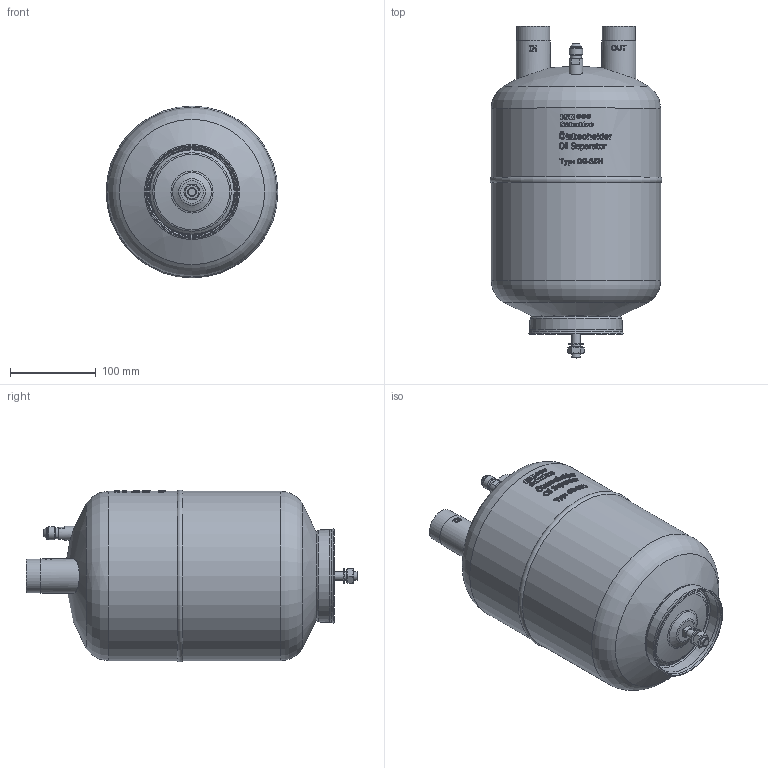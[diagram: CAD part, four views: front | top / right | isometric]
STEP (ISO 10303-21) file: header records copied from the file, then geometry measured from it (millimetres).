
FILE_DESCRIPTION(/* description */ (''),/* implementation_level */ '2;1');
FILE_NAME(/* name */ 'P:\OS\OS-35H\OS-35H.stp',/* time_stamp */ '2017-10-04T07:42:36+02:00',/* author */ ('neufeld'),/* organization */ (''),/* preprocessor_version */ 'ST-DEVELOPER v16.1',/* originating_system */ 'Autodesk Inventor 2016',/* authorisation */ '');
FILE_SCHEMA (('AUTOMOTIVE_DESIGN { 1 0 10303 214 3 1 1 }'));
Length unit declared in the file: millimetre
Products named in the file (1): OS-35H
Bounding box: 200.96 x 388.18 x 200.96 mm (x, y, z)
Volume: 8365822.2 mm3; surface area: 250441.9 mm2
Topology: 2 solids, 2 shells, 992 faces, 2661 edges, 1763 vertices
Faces by surface type: plane 519, bspline 341, cylinder 96, cone 19, torus 14, sphere 3
Full cylindrical faces by diameter (mm): 7.2 x1, 10 x2, 12.9 x1, 13.5 x1, 15.7 x1, 16 x1, 16.1 x1, 35.2 x2, 39 x2, 40 x2, 198 x2
Entity records: 37699 total; most frequent: CARTESIAN_POINT 14848, ORIENTED_EDGE 5218, DIRECTION 3871, EDGE_CURVE 2609, VERTEX_POINT 1754, AXIS2_PLACEMENT_3D 1323, LINE 1225, VECTOR 1225
